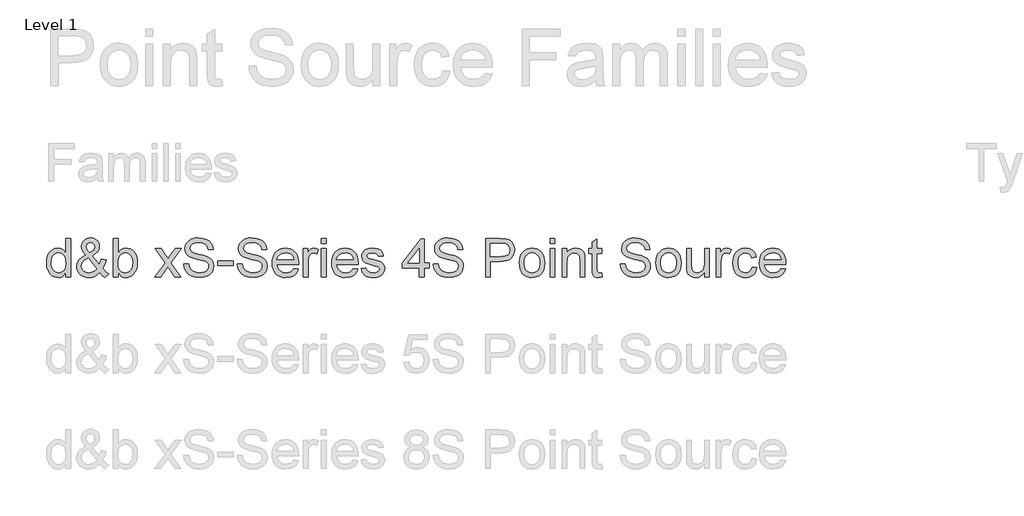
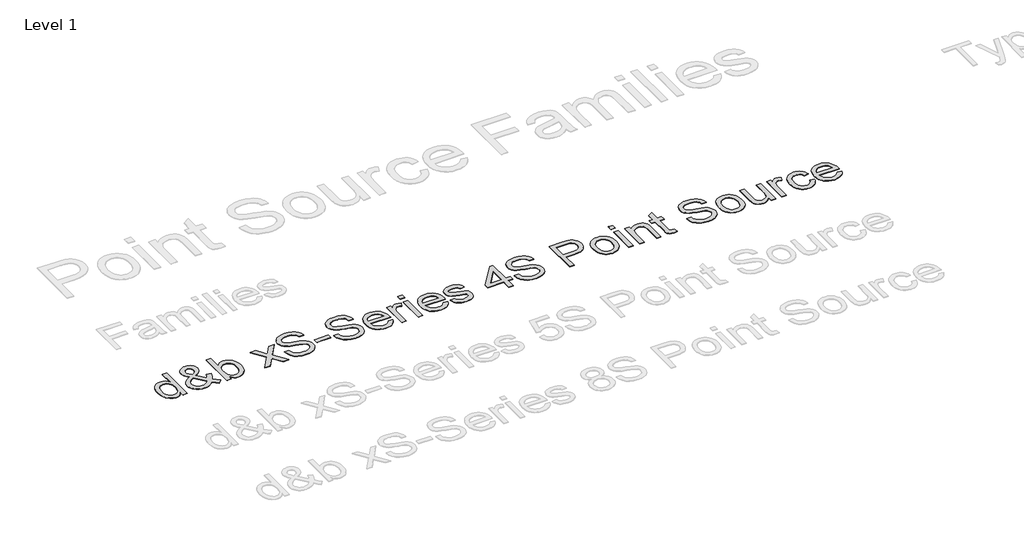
# One storey, part 51 of 55: 1 proxy.
"""IFC4 building model written with IfcOpenShell, lengths in millimetres."""

from ifc_helpers import new_model, si_unit, origin, origin_with_axes, place, context, project, spatial, polyline, outline, extrude, element, save

model = new_model("IFC4")

# Units and contexts
model_context = context("Model", 3, world=origin())
ifc_project = project(units=[si_unit("LENGTHUNIT", "METRE", prefix="MILLI")], contexts=[model_context])

# Site, building, storey
site = spatial("IfcSite", under=ifc_project)
building = spatial("IfcBuilding", under=site)
storey = spatial("IfcBuildingStorey", under=building, Name="Level 1", Elevation=0.0)

# Proxy
placement = place(None, origin())
element("IfcBuildingElementProxy", 1, Name="400mm Arial", ObjectType="400mm Arial", at=placement, inside=storey, context=model_context, shape_type="SweptSolid", body=[
    extrude(outline(polyline([(-20879.8211974, 16351.3054836), (-20879.8211974, 16398.6886846), (-20894.8491769, 16375.2116819), (-20913.0532043, 16358.4423943), (-20934.4332796, 16348.3808217), (-20958.9894028, 16345.0269642), (-20991.4611202, 16349.8830065), (-21021.1859854, 16364.4511335), (-21046.3491139, 16387.7135384), (-21065.1356211, 16418.6524142), (-21076.8342686, 16456.0169621), (-21080.7338177, 16498.5563835), (-21077.1408369, 16540.5685074), (-21066.3618944, 16578.5094038), (-21048.4092531, 16610.2208318), (-21023.2951755, 16633.5445503), (-20992.9203855, 16647.8919481), (-20959.1856065, 16652.674414), (-20934.6110892, 16649.2531115), (-20912.8815261, 16638.9892038), (-20894.4629008, 16623.2561171), (-20879.8211974, 16603.4272776), (-20879.8211974, 16753.1307242), (-20829.5930424, 16753.1307242), (-20829.5930424, 16351.3054836), (-20879.8211974, 16351.3054836)]), holes=[polyline([(-21030.5056627, 16498.7525872), (-21029.089317, 16474.3957335), (-21024.8402799, 16453.3191608), (-21017.7585515, 16435.5228693), (-21007.8441318, 16421.0068589), (-20983.1469871, 16401.6930542), (-20969.2717046, 16396.864603), (-20954.3786151, 16395.2551193), (-20939.415015, 16396.7910266), (-20925.6225058, 16401.3987486), (-20901.5507606, 16419.8296365), (-20892.0440767, 16433.7386416), (-20885.2535882, 16450.8911397), (-20879.8211974, 16494.9266145), (-20885.3516901, 16543.0701049), (-20892.2648059, 16561.6052261), (-20901.9431681, 16576.4492646), (-20913.6448812, 16587.8229496), (-20926.6280499, 16595.9470104), (-20940.8926743, 16600.8214468), (-20956.4387543, 16602.4462589), (-20971.6261493, 16600.8858262), (-20985.5014319, 16596.2045278), (-20998.064602, 16588.4023638), (-21009.3156597, 16577.4793342), (-21018.586286, 16563.1963157), (-21025.2081619, 16545.3141851), (-21030.5056627, 16498.7525872)])]), origin_with_axes(), (0.0, 0.0, 1.0), 5.0),
    extrude(outline(polyline([(-20523.809528, 16400.9450275), (-20549.3405384, 16376.4808748), (-20577.0788409, 16359.00648), (-20607.0734862, 16348.5218431), (-20639.3735254, 16345.0269642), (-20668.6814577, 16347.6144009), (-20694.8010793, 16355.376711), (-20717.7323904, 16368.3138945), (-20737.4753908, 16386.4259514), (-20750.308341, 16403.7961129), (-20759.4747341, 16422.1595558), (-20764.9745699, 16441.5162802), (-20766.8078485, 16461.8662859), (-20760.9094739, 16497.0603301), (-20743.2143499, 16528.6736562), (-20713.796053, 16556.6817387), (-20672.7281596, 16581.0600523), (-20694.6416638, 16609.4114914), (-20707.7995765, 16631.8768186), (-20714.3846642, 16651.0557332), (-20716.5796934, 16669.5479349), (-20714.8506481, 16687.1020374), (-20709.6635119, 16703.4666548), (-20701.018285, 16718.6417871), (-20688.9149674, 16732.6274343), (-20674.1935562, 16744.3444759), (-20657.6940487, 16752.7137912), (-20639.4164449, 16757.7353805), (-20619.3607448, 16759.4092436), (-20600.212487, 16757.8089569), (-20582.8913764, 16753.0080968), (-20567.397413, 16745.0066634), (-20553.7305969, 16733.8046567), (-20542.5715097, 16720.3585698), (-20534.6007332, 16705.6248959), (-20529.8182672, 16689.603635), (-20528.2241119, 16672.2947871), (-20532.9452642, 16644.31123), (-20547.108721, 16618.436863), (-20570.7144823, 16594.6716861), (-20603.7625482, 16573.0156993), (-20531.069066, 16482.4676776), (-20518.6837055, 16508.3420446), (-20509.3885538, 16538.0914353), (-20459.1603987, 16527.2021282), (-20474.6114425, 16480.6773185), (-20494.6732739, 16444.5022557), (-20466.1256311, 16411.1966724), (-20434.0463211, 16383.6790991), (-20471.7174374, 16345.0269642), (-20497.3465498, 16368.47331), (-20523.809528, 16400.9450275)]), holes=[polyline([(-20557.4584678, 16437.1446158), (-20647.1235727, 16549.0788442), (-20681.3733865, 16527.2266537), (-20702.305872, 16506.9931439), (-20713.0112381, 16487.6670765), (-20716.5796934, 16468.5372127), (-20711.6991256, 16444.8456122), (-20697.0574222, 16420.2710949), (-20686.2784798, 16409.3266056), (-20673.4639236, 16401.5091132), (-20658.6137537, 16396.8186177), (-20641.7279702, 16395.2551193), (-20619.0051256, 16398.1736498), (-20595.5710425, 16406.9292412), (-20574.1480476, 16420.3201459), (-20557.4584678, 16437.1446158)]), polyline([(-20629.1709314, 16604.7026019), (-20602.9041569, 16621.3676562), (-20587.8700461, 16635.8499441), (-20580.8067117, 16649.9398245), (-20578.452267, 16665.4276565), (-20581.5547385, 16682.9756277), (-20590.862153, 16696.9674062), (-20604.829406, 16706.1276679), (-20621.9113933, 16709.1810885), (-20639.3612626, 16706.1521934), (-20653.6473468, 16697.0655081), (-20663.1754905, 16683.6132898), (-20666.3515384, 16667.4877957), (-20662.0350563, 16649.0936959), (-20648.9875082, 16628.639457), (-20629.1709314, 16604.7026019)])]), origin_with_axes(), (0.0, 0.0, 1.0), 5.0),
    extrude(outline(polyline([(-20333.590011, 16351.3054836), (-20383.8181661, 16351.3054836), (-20383.8181661, 16753.1307242), (-20333.590011, 16753.1307242), (-20333.590011, 16604.1139907), (-20317.0721094, 16625.3591759), (-20298.4204923, 16640.5343082), (-20277.6351595, 16649.6393876), (-20254.7161112, 16652.674414), (-20228.8417442, 16649.9398245), (-20204.3898543, 16641.736056), (-20182.758393, 16628.5781433), (-20165.3453119, 16610.9811212), (-20151.6968898, 16589.116668), (-20141.3594058, 16563.1564619), (-20134.8478945, 16534.1796234), (-20132.6773907, 16503.265273), (-20134.9245365, 16467.5929822), (-20141.6659741, 16436.2126481), (-20152.9017034, 16409.1242705), (-20168.6317244, 16386.3278495), (-20187.5132678, 16368.2587122), (-20208.2035643, 16355.3521855), (-20230.702614, 16347.6082695), (-20255.0104168, 16345.0269642), (-20278.6836232, 16348.3562962), (-20299.671291, 16358.3442924), (-20317.9734203, 16374.9909527), (-20333.590011, 16398.2962771), (-20333.590011, 16351.3054836)]), holes=[polyline([(-20333.590011, 16500.9108283), (-20330.1564457, 16459.0213318), (-20319.8557498, 16430.6698927), (-20307.6849872, 16415.1759293), (-20293.5399244, 16404.1088126), (-20277.4205617, 16397.4685426), (-20259.3268989, 16395.2551193), (-20244.3050508, 16396.8860628), (-20230.3377977, 16401.7788933), (-20217.4251396, 16409.9336109), (-20205.5670767, 16421.3502155), (-20195.6526569, 16435.9980502), (-20188.5709285, 16453.8464584), (-20184.3218914, 16474.8954399), (-20182.9055458, 16499.1449947), (-20188.3379366, 16545.1057186), (-20195.1284251, 16562.8989445), (-20204.6351089, 16577.2340795), (-20216.0670419, 16588.264408), (-20228.6332778, 16596.1432141), (-20242.3338164, 16600.8704977), (-20257.1686579, 16602.4462589), (-20272.190506, 16600.8153154), (-20286.1577591, 16595.9224849), (-20299.0704171, 16587.7677673), (-20310.9284801, 16576.3511628), (-20320.8428999, 16561.8504808), (-20327.9246283, 16544.443531), (-20332.1736653, 16524.1303135), (-20333.590011, 16500.9108283)])]), origin_with_axes(), (0.0, 0.0, 1.0), 5.0),
    extrude(outline(polyline([(-19950.6003285, 16351.3054836), (-19843.2768878, 16499.7336059), (-19944.3218092, 16646.3958946), (-19884.0872638, 16646.3958946), (-19835.3306367, 16575.6644497), (-19812.4729021, 16542.4079173), (-19792.6563253, 16569.6802359), (-19737.1306695, 16646.3958946), (-19676.6999204, 16646.3958946), (-19782.8461387, 16499.635504), (-19680.623995, 16351.3054836), (-19740.9566422, 16351.3054836), (-19802.5646137, 16440.5781811), (-19813.7482263, 16456.9611926), (-19890.1695795, 16351.3054836), (-19950.6003285, 16351.3054836)])), origin_with_axes(), (0.0, 0.0, 1.0), 5.0),
    extrude(outline(polyline([(-19649.2313981, 16489.43291), (-19599.003243, 16489.43291), (-19593.2397584, 16461.5597175), (-19582.8164352, 16439.155704), (-19566.556051, 16421.3747409), (-19543.2813835, 16407.3706996), (-19514.8318425, 16398.2840144), (-19483.0468381, 16395.2551193), (-19455.063281, 16397.5482504), (-19430.5623402, 16404.4276437), (-19410.7089752, 16415.3169507), (-19396.6681457, 16429.6398231), (-19388.3172244, 16446.0841483), (-19385.533584, 16463.3378138), (-19387.6182486, 16480.150021), (-19393.8722425, 16494.6813598), (-19406.5764341, 16507.0789831), (-19428.0116917, 16517.4900435), (-19501.1466323, 16536.6689582), (-19549.1552327, 16549.360887), (-19579.8733793, 16561.4396792), (-19604.8770922, 16578.3377255), (-19622.5967416, 16598.8164899), (-19633.1549549, 16622.434514), (-19636.6743593, 16648.7503394), (-19632.3210891, 16678.1686363), (-19619.2612782, 16705.6003704), (-19597.8382834, 16728.8505125), (-19568.395461, 16745.7240333), (-19533.054264, 16755.987941), (-19493.9361452, 16759.4092436), (-19451.5561394, 16755.8285255), (-19414.4736342, 16745.0863712), (-19384.013005, 16727.40351), (-19361.4986269, 16703.000671), (-19347.249331, 16673.3984331), (-19341.5839483, 16640.1173753), (-19391.8121033, 16640.1173753), (-19401.0336787, 16670.0874951), (-19409.3968627, 16681.9455581), (-19420.2616443, 16691.7189564), (-19450.3053406, 16704.8155555), (-19491.9741079, 16709.1810885), (-19534.6238939, 16704.8646064), (-19550.9271976, 16699.4690038), (-19563.8827752, 16691.9151602), (-19580.805347, 16672.8588728), (-19586.4462043, 16650.2218674), (-19582.4485532, 16630.9203254), (-19570.4556002, 16615.3957052), (-19542.1041611, 16601.5142912), (-19488.4424407, 16587.3385717), (-19433.0639377, 16573.8740907), (-19399.5621507, 16562.1263923), (-19370.9286687, 16543.9039708), (-19350.9526764, 16521.4141181), (-19339.2172408, 16494.902089), (-19335.3054289, 16464.6131381), (-19339.805852, 16433.6497368), (-19353.3071212, 16404.5257455), (-19375.2574136, 16379.4607189), (-19405.1049061, 16360.6742117), (-19440.9979261, 16348.9387761), (-19481.0848008, 16345.0269642), (-19530.2951491, 16349.2453444), (-19570.7989567, 16361.900485), (-19603.0622077, 16383.041437), (-19627.5508858, 16412.7172513), (-19643.2717098, 16448.8677887), (-19649.2313981, 16489.43291)])), origin_with_axes(), (0.0, 0.0, 1.0), 5.0),
    extrude(outline(polyline([(-19291.3557932, 16470.5973519), (-19291.3557932, 16520.825507), (-19134.3928086, 16520.825507), (-19134.3928086, 16470.5973519), (-19291.3557932, 16470.5973519)])), origin_with_axes(), (0.0, 0.0, 1.0), 5.0),
    extrude(outline(polyline([(-19090.4431729, 16489.43291), (-19040.2150178, 16489.43291), (-19034.4515332, 16461.5597175), (-19024.02821, 16439.155704), (-19007.7678258, 16421.3747409), (-18984.4931583, 16407.3706996), (-18956.0436173, 16398.2840144), (-18924.2586129, 16395.2551193), (-18896.2750558, 16397.5482504), (-18871.774115, 16404.4276437), (-18851.9207499, 16415.3169507), (-18837.8799205, 16429.6398231), (-18829.5289992, 16446.0841483), (-18826.7453587, 16463.3378138), (-18828.8300234, 16480.150021), (-18835.0840173, 16494.6813598), (-18847.7882089, 16507.0789831), (-18869.2234665, 16517.4900435), (-18942.3584071, 16536.6689582), (-18990.3670075, 16549.360887), (-19021.0851541, 16561.4396792), (-19046.088867, 16578.3377255), (-19063.8085164, 16598.8164899), (-19074.3667297, 16622.434514), (-19077.8861341, 16648.7503394), (-19073.5328638, 16678.1686363), (-19060.473053, 16705.6003704), (-19039.0500582, 16728.8505125), (-19009.6072358, 16745.7240333), (-18974.2660388, 16755.987941), (-18935.14792, 16759.4092436), (-18892.7679141, 16755.8285255), (-18855.685409, 16745.0863712), (-18825.2247798, 16727.40351), (-18802.7104017, 16703.000671), (-18788.4611058, 16673.3984331), (-18782.7957231, 16640.1173753), (-18833.0238781, 16640.1173753), (-18842.2454535, 16670.0874951), (-18850.6086375, 16681.9455581), (-18861.4734191, 16691.7189564), (-18891.5171154, 16704.8155555), (-18933.1858827, 16709.1810885), (-18975.8356687, 16704.8646064), (-18992.1389724, 16699.4690038), (-19005.09455, 16691.9151602), (-19022.0171218, 16672.8588728), (-19027.657979, 16650.2218674), (-19023.660328, 16630.9203254), (-19011.667375, 16615.3957052), (-18983.3159359, 16601.5142912), (-18929.6542155, 16587.3385717), (-18874.2757125, 16573.8740907), (-18840.7739255, 16562.1263923), (-18812.1404435, 16543.9039708), (-18792.1644512, 16521.4141181), (-18780.4290156, 16494.902089), (-18776.5172037, 16464.6131381), (-18781.0176267, 16433.6497368), (-18794.518896, 16404.5257455), (-18816.4691883, 16379.4607189), (-18846.3166809, 16360.6742117), (-18882.2097009, 16348.9387761), (-18922.2965756, 16345.0269642), (-18971.5069238, 16349.2453444), (-19012.0107315, 16361.900485), (-19044.2739825, 16383.041437), (-19068.7626606, 16412.7172513), (-19084.4834846, 16448.8677887), (-19090.4431729, 16489.43291)])), origin_with_axes(), (0.0, 0.0, 1.0), 5.0),
    extrude(outline(polyline([(-18500.850962, 16439.204755), (-18451.6038255, 16432.9262356), (-18459.1546035, 16413.2016293), (-18469.3480004, 16395.819205), (-18482.1840164, 16380.7789628), (-18497.6626513, 16368.0809026), (-18515.6244897, 16357.9948045), (-18535.9101161, 16350.7904488), (-18583.4527326, 16345.0269642), (-18614.618469, 16347.5132333), (-18642.3874282, 16354.9720408), (-18666.7596104, 16367.4033865), (-18687.7350155, 16384.8072706), (-18704.602405, 16406.699315), (-18716.6505403, 16432.5951418), (-18723.8794215, 16462.4947509), (-18726.2890486, 16496.3981425), (-18723.8548961, 16531.4511652), (-18716.5524385, 16562.3471215), (-18704.3816758, 16589.0860112), (-18687.342608, 16611.6678343), (-18666.4223852, 16629.6082129), (-18642.6081574, 16642.4227691), (-18615.8999246, 16650.1115028), (-18586.2976867, 16652.674414), (-18557.6488763, 16650.1176342), (-18531.7407868, 16642.4472946), (-18508.5734182, 16629.6633952), (-18488.1467704, 16611.7659362), (-18471.472519, 16589.233164), (-18459.5623394, 16562.5433252), (-18452.4162316, 16531.6964199), (-18450.0341957, 16496.6924481), (-18450.3285013, 16483.1543906), (-18676.0608935, 16483.1543906), (-18673.1515601, 16463.1109533), (-18667.3666157, 16445.5568507), (-18658.7060604, 16430.492083), (-18647.1698942, 16417.9166502), (-18633.3957791, 16408.0022304), (-18618.0213774, 16400.920502), (-18582.4717139, 16395.2551193), (-18555.7389556, 16397.8793442), (-18533.2245775, 16405.7520189), (-18514.9285796, 16419.3636527), (-18500.850962, 16439.204755)]), holes=[polyline([(-18676.0608935, 16533.3825457), (-18500.2623508, 16533.3825457), (-18507.0559049, 16559.9191003), (-18520.3732332, 16578.9018113), (-18534.0707061, 16589.2025071), (-18549.65664, 16596.560147), (-18567.1310348, 16600.974731), (-18586.4938904, 16602.4462589), (-18620.3512967, 16597.7496321), (-18648.3471166, 16583.6597517), (-18667.8080741, 16561.6971966), (-18676.0608935, 16533.3825457)])]), origin_with_axes(), (0.0, 0.0, 1.0), 5.0),
    extrude(outline(polyline([(-18399.8060406, 16351.3054836), (-18399.8060406, 16646.3958946), (-18355.8564049, 16646.3958946), (-18355.8564049, 16602.7405645), (-18339.6205462, 16628.0508458), (-18324.6600117, 16642.9623293), (-18309.6504263, 16650.2463929), (-18293.2674148, 16652.674414), (-18268.2514391, 16648.7993903), (-18242.843056, 16637.1743193), (-18259.618475, 16592.1455631), (-18277.2768108, 16599.871085), (-18294.9351465, 16602.4462589), (-18309.9324692, 16599.9691868), (-18323.3356365, 16592.5379705), (-18334.1636299, 16580.7166958), (-18341.4354307, 16565.0694482), (-18347.5422718, 16537.0123147), (-18349.5778855, 16506.4045327), (-18349.5778855, 16351.3054836), (-18399.8060406, 16351.3054836)])), origin_with_axes(), (0.0, 0.0, 1.0), 5.0),
    extrude(outline(polyline([(-18211.4504591, 16702.9025691), (-18211.4504591, 16753.1307242), (-18161.222304, 16753.1307242), (-18161.222304, 16702.9025691), (-18211.4504591, 16702.9025691)])), origin_with_axes(), (0.0, 0.0, 1.0), 5.0),
    extrude(outline(polyline([(-18211.4504591, 16351.3054836), (-18211.4504591, 16646.3958946), (-18161.222304, 16646.3958946), (-18161.222304, 16351.3054836), (-18211.4504591, 16351.3054836)])), origin_with_axes(), (0.0, 0.0, 1.0), 5.0),
    extrude(outline(polyline([(-17879.2775429, 16439.204755), (-17830.0304065, 16432.9262356), (-17837.5811844, 16413.2016293), (-17847.7745814, 16395.819205), (-17860.6105973, 16380.7789628), (-17876.0892323, 16368.0809026), (-17894.0510707, 16357.9948045), (-17914.336697, 16350.7904488), (-17961.8793136, 16345.0269642), (-17993.0450499, 16347.5132333), (-18020.8140092, 16354.9720408), (-18045.1861914, 16367.4033865), (-18066.1615965, 16384.8072706), (-18083.0289859, 16406.699315), (-18095.0771213, 16432.5951418), (-18102.3060025, 16462.4947509), (-18104.7156295, 16496.3981425), (-18102.281477, 16531.4511652), (-18094.9790194, 16562.3471215), (-18082.8082567, 16589.0860112), (-18065.769189, 16611.6678343), (-18044.8489662, 16629.6082129), (-18021.0347384, 16642.4227691), (-17994.3265055, 16650.1115028), (-17964.7242676, 16652.674414), (-17936.0754573, 16650.1176342), (-17910.1673678, 16642.4472946), (-17886.9999991, 16629.6633952), (-17866.5733513, 16611.7659362), (-17849.8990999, 16589.233164), (-17837.9889203, 16562.5433252), (-17830.8428126, 16531.6964199), (-17828.4607766, 16496.6924481), (-17828.7550822, 16483.1543906), (-18054.4874745, 16483.1543906), (-18051.578141, 16463.1109533), (-18045.7931967, 16445.5568507), (-18037.1326413, 16430.492083), (-18025.5964751, 16417.9166502), (-18011.8223601, 16408.0022304), (-17996.4479584, 16400.920502), (-17960.8982949, 16395.2551193), (-17934.1655366, 16397.8793442), (-17911.6511585, 16405.7520189), (-17893.3551606, 16419.3636527), (-17879.2775429, 16439.204755)]), holes=[polyline([(-18054.4874745, 16533.3825457), (-17878.6889317, 16533.3825457), (-17885.4824859, 16559.9191003), (-17898.7998141, 16578.9018113), (-17912.4972871, 16589.2025071), (-17928.0832209, 16596.560147), (-17945.5576157, 16600.974731), (-17964.9204714, 16602.4462589), (-17998.7778777, 16597.7496321), (-18026.7736975, 16583.6597517), (-18046.234655, 16561.6971966), (-18054.4874745, 16533.3825457)])]), origin_with_axes(), (0.0, 0.0, 1.0), 5.0),
    extrude(outline(polyline([(-17797.0681797, 16439.204755), (-17746.8400246, 16445.4832743), (-17738.918299, 16423.9989658), (-17723.5898825, 16408.2045655), (-17700.7566734, 16398.4924808), (-17670.3205696, 16395.2551193), (-17640.2523479, 16398.2227007), (-17619.1113959, 16407.125445), (-17606.6034081, 16420.0258403), (-17602.4340788, 16434.9863747), (-17606.6279335, 16447.7886682), (-17619.2094978, 16457.5498038), (-17670.9091808, 16471.8726761), (-17746.545719, 16496.4471934), (-17765.6878455, 16508.7957657), (-17779.5569967, 16525.141989), (-17787.9814944, 16544.443531), (-17790.7896603, 16565.6580594), (-17788.5333174, 16585.119017), (-17781.7642887, 16603.0839211), (-17771.0957109, 16618.8415332), (-17757.1407205, 16631.6806148), (-17725.2085633, 16646.5430474), (-17704.3251287, 16651.1415724), (-17681.9946916, 16652.674414), (-17649.302245, 16650.2096047), (-17620.8772295, 16642.8151766), (-17598.0194949, 16631.214631), (-17582.0288908, 16616.1314692), (-17571.4338893, 16596.4497824), (-17564.7629625, 16571.053662), (-17614.9911176, 16564.7751426), (-17621.3309506, 16580.5818057), (-17633.8757267, 16592.4889196), (-17652.748073, 16599.9569241), (-17678.070617, 16602.4462589), (-17706.9125654, 16600.0672887), (-17726.140531, 16592.930378), (-17736.9562617, 16582.6296821), (-17740.5615053, 16570.7593564), (-17734.5772915, 16556.1421785), (-17715.8398352, 16545.0566677), (-17672.5769125, 16534.3635644), (-17598.8533607, 16510.7210148), (-17579.3801404, 16499.4147748), (-17564.6158097, 16483.9392056), (-17555.3083952, 16464.2452561), (-17552.2059237, 16440.2838755), (-17555.8479555, 16415.5131545), (-17566.7740507, 16392.2139614), (-17584.5672766, 16372.2134436), (-17608.8107, 16357.3387483), (-17638.0941069, 16348.1049102), (-17671.0072827, 16345.0269642), (-17698.040478, 16346.5107549), (-17721.6523707, 16350.962127), (-17741.8429609, 16358.3810806), (-17758.6122485, 16368.7676156), (-17772.3097214, 16382.0726811), (-17783.2848676, 16398.2472262), (-17791.5376871, 16417.2912508), (-17797.0681797, 16439.204755)])), origin_with_axes(), (0.0, 0.0, 1.0), 5.0),
    extrude(outline(polyline([(-17188.0517994, 16351.3054836), (-17188.0517994, 16445.4832743), (-17370.1288616, 16445.4832743), (-17370.1288616, 16495.7114294), (-17175.4947607, 16746.8522048), (-17137.8236444, 16746.8522048), (-17137.8236444, 16495.7114294), (-17087.5954893, 16495.7114294), (-17087.5954893, 16445.4832743), (-17137.8236444, 16445.4832743), (-17137.8236444, 16351.3054836), (-17188.0517994, 16351.3054836)]), holes=[polyline([(-17188.0517994, 16495.7114294), (-17188.0517994, 16650.9085804), (-17308.3246864, 16495.7114294), (-17188.0517994, 16495.7114294)])]), origin_with_axes(), (0.0, 0.0, 1.0), 5.0),
    extrude(outline(polyline([(-17043.6458536, 16489.43291), (-16993.4176985, 16489.43291), (-16987.6542139, 16461.5597175), (-16977.2308907, 16439.155704), (-16960.9705065, 16421.3747409), (-16937.695839, 16407.3706996), (-16909.246298, 16398.2840144), (-16877.4612936, 16395.2551193), (-16849.4777365, 16397.5482504), (-16824.9767957, 16404.4276437), (-16805.1234307, 16415.3169507), (-16791.0826012, 16429.6398231), (-16782.7316799, 16446.0841483), (-16779.9480394, 16463.3378138), (-16782.0327041, 16480.150021), (-16788.286698, 16494.6813598), (-16800.9908896, 16507.0789831), (-16822.4261472, 16517.4900435), (-16895.5610878, 16536.6689582), (-16943.5696882, 16549.360887), (-16974.2878348, 16561.4396792), (-16999.2915477, 16578.3377255), (-17017.0111971, 16598.8164899), (-17027.5694104, 16622.434514), (-17031.0888148, 16648.7503394), (-17026.7355445, 16678.1686363), (-17013.6757337, 16705.6003704), (-16992.2527389, 16728.8505125), (-16962.8099165, 16745.7240333), (-16927.4687195, 16755.987941), (-16888.3506007, 16759.4092436), (-16845.9705948, 16755.8285255), (-16808.8880897, 16745.0863712), (-16778.4274605, 16727.40351), (-16755.9130824, 16703.000671), (-16741.6637865, 16673.3984331), (-16735.9984038, 16640.1173753), (-16786.2265588, 16640.1173753), (-16795.4481342, 16670.0874951), (-16803.8113182, 16681.9455581), (-16814.6760998, 16691.7189564), (-16844.7197961, 16704.8155555), (-16886.3885634, 16709.1810885), (-16929.0383494, 16704.8646064), (-16945.3416531, 16699.4690038), (-16958.2972307, 16691.9151602), (-16975.2198025, 16672.8588728), (-16980.8606597, 16650.2218674), (-16976.8630087, 16630.9203254), (-16964.8700557, 16615.3957052), (-16936.5186166, 16601.5142912), (-16882.8568962, 16587.3385717), (-16827.4783932, 16573.8740907), (-16793.9766062, 16562.1263923), (-16765.3431242, 16543.9039708), (-16745.3671319, 16521.4141181), (-16733.6316963, 16494.902089), (-16729.7198844, 16464.6131381), (-16734.2203074, 16433.6497368), (-16747.7215767, 16404.5257455), (-16769.671869, 16379.4607189), (-16799.5193616, 16360.6742117), (-16835.4123816, 16348.9387761), (-16875.4992563, 16345.0269642), (-16924.7096046, 16349.2453444), (-16965.2134122, 16361.900485), (-16997.4766632, 16383.041437), (-17021.9653413, 16412.7172513), (-17037.6861653, 16448.8677887), (-17043.6458536, 16489.43291)])), origin_with_axes(), (0.0, 0.0, 1.0), 5.0),
    extrude(outline(polyline([(-16497.4146672, 16351.3054836), (-16497.4146672, 16753.1307242), (-16348.4960355, 16753.1307242), (-16288.4576939, 16749.3047514), (-16261.6881474, 16742.155578), (-16239.6520159, 16730.5182442), (-16221.907841, 16713.8654526), (-16208.0141643, 16691.6699055), (-16199.0378436, 16665.4889702), (-16196.0457367, 16636.8800137), (-16198.066022, 16612.2135259), (-16204.1268779, 16589.5213382), (-16214.2283043, 16568.8034505), (-16228.3703013, 16550.0598628), (-16247.7852736, 16534.5229799), (-16273.7056259, 16523.4252064), (-16306.1313581, 16516.7665423), (-16345.0624702, 16514.5469876), (-16447.1865121, 16514.5469876), (-16447.1865121, 16351.3054836), (-16497.4146672, 16351.3054836)]), holes=[polyline([(-16447.1865121, 16564.7751426), (-16342.1194143, 16564.7751426), (-16297.5811674, 16569.3859303), (-16280.9774267, 16575.1494149), (-16268.1506078, 16583.2182933), (-16258.5795445, 16593.3779678), (-16251.7430708, 16605.4138404), (-16246.2738918, 16635.1141801), (-16249.4989906, 16657.6776092), (-16259.1742871, 16676.709371), (-16274.0980333, 16691.0322434), (-16293.0684816, 16699.4690038), (-16343.2966366, 16702.9025691), (-16447.1865121, 16702.9025691), (-16447.1865121, 16564.7751426)])]), origin_with_axes(), (0.0, 0.0, 1.0), 5.0),
    extrude(outline(polyline([(-16145.8175816, 16498.8506891), (-16143.1013862, 16537.067497), (-16134.9528, 16569.999067), (-16121.371823, 16597.6453989), (-16102.3584553, 16620.0064928), (-16083.2163288, 16634.2987084), (-16062.0876395, 16644.5074337), (-16038.9723875, 16650.6326689), (-16013.8705727, 16652.674414), (-15986.1598614, 16650.1881449), (-15961.1040319, 16642.7293374), (-15938.703084, 16630.2979917), (-15918.9570179, 16612.8941076), (-15902.8407209, 16591.1062964), (-15891.3290801, 16565.5231694), (-15884.4220956, 16536.1447264), (-15882.1197675, 16502.9709675), (-15886.1909949, 16452.2277776), (-15898.4046771, 16413.6001681), (-15918.4051949, 16384.6723805), (-15945.8369291, 16363.0286565), (-15978.4190111, 16349.5273873), (-16013.8705727, 16345.0269642), (-16041.9859542, 16347.5040363), (-16067.2747757, 16354.9352526), (-16089.7370371, 16367.3206131), (-16109.3727386, 16384.6601178), (-16125.3173574, 16406.6594611), (-16136.7063709, 16433.0243374), (-16143.5397789, 16463.7547468), (-16145.8175816, 16498.8506891)]), holes=[polyline([(-16095.5894266, 16498.948791), (-16094.1362927, 16474.5858058), (-16089.776891, 16453.4908391), (-16082.5112216, 16435.6638907), (-16072.3392845, 16421.1049608), (-16059.9661867, 16409.7956551), (-16046.0970355, 16401.7175796), (-16030.7318308, 16396.8707344), (-16013.8705727, 16395.2551193), (-15997.0951537, 16396.8799314), (-15981.7912627, 16401.7543678), (-15967.9588997, 16409.8784286), (-15955.5980647, 16421.2521136), (-15945.4261275, 16435.9551307), (-15938.1604581, 16454.0671876), (-15933.8010564, 16475.5882843), (-15932.3479226, 16500.5184208), (-15933.8102535, 16524.1088538), (-15938.1972463, 16544.6519975), (-15945.5089009, 16562.1478521), (-15955.7452175, 16576.5964174), (-15968.1520377, 16587.9057231), (-15981.9752037, 16595.9837986), (-15997.2147154, 16600.8306439), (-16013.8705727, 16602.4462589), (-16030.7318308, 16600.8367752), (-16046.0970355, 16596.008324), (-16059.9661867, 16587.9609054), (-16072.3392845, 16576.6945193), (-16082.5112216, 16562.1785089), (-16089.776891, 16544.3822174), (-16094.1362927, 16523.3056447), (-16095.5894266, 16498.948791)])]), origin_with_axes(), (0.0, 0.0, 1.0), 5.0),
    extrude(outline(polyline([(-15825.613093, 16702.9025691), (-15825.613093, 16753.1307242), (-15775.384938, 16753.1307242), (-15775.384938, 16702.9025691), (-15825.613093, 16702.9025691)])), origin_with_axes(), (0.0, 0.0, 1.0), 5.0),
    extrude(outline(polyline([(-15825.613093, 16351.3054836), (-15825.613093, 16646.3958946), (-15775.384938, 16646.3958946), (-15775.384938, 16351.3054836), (-15825.613093, 16351.3054836)])), origin_with_axes(), (0.0, 0.0, 1.0), 5.0),
    extrude(outline(polyline([(-15700.0427053, 16351.3054836), (-15700.0427053, 16646.3958946), (-15649.8145503, 16646.3958946), (-15649.8145503, 16605.1931112), (-15632.364681, 16625.9661812), (-15611.40767, 16640.8040883), (-15586.9435173, 16649.7068326), (-15558.9722229, 16652.674414), (-15534.2137646, 16650.2831811), (-15511.539971, 16643.1094821), (-15492.6308365, 16632.0484968), (-15479.1663554, 16617.9954046), (-15470.0306192, 16600.9869937), (-15464.1077191, 16581.0600523), (-15461.4589687, 16532.4996289), (-15461.4589687, 16351.3054836), (-15511.6871238, 16351.3054836), (-15511.6871238, 16525.7306002), (-15513.1341263, 16551.7030691), (-15517.4751339, 16570.1707452), (-15525.4826986, 16583.4022343), (-15537.9293728, 16593.666142), (-15553.8831887, 16600.2512297), (-15572.4121785, 16602.4462589), (-15601.8304754, 16597.5166402), (-15626.9077647, 16582.727784), (-15636.9294834, 16570.6551232), (-15644.0878539, 16554.1556157), (-15648.3828762, 16533.2292616), (-15649.8145503, 16507.8760607), (-15649.8145503, 16351.3054836), (-15700.0427053, 16351.3054836)])), origin_with_axes(), (0.0, 0.0, 1.0), 5.0),
    extrude(outline(polyline([(-15285.660426, 16393.1949801), (-15279.3819066, 16349.8339556), (-15316.954921, 16345.0269642), (-15341.0634544, 16347.1116288), (-15359.0406213, 16353.3656227), (-15371.7448128, 16363.004131), (-15380.0344205, 16375.2423387), (-15384.5961572, 16396.2606634), (-15386.1167361, 16432.2395225), (-15386.1167361, 16596.1677396), (-15423.7878524, 16596.1677396), (-15423.7878524, 16646.3958946), (-15386.1167361, 16646.3958946), (-15386.1167361, 16718.1083582), (-15335.888581, 16747.6370197), (-15335.888581, 16646.3958946), (-15285.660426, 16646.3958946), (-15285.660426, 16596.1677396), (-15335.888581, 16596.1677396), (-15335.888581, 16433.7110505), (-15333.2398307, 16407.812158), (-15324.6559175, 16398.6396336), (-15307.537142, 16395.2551193), (-15285.660426, 16393.1949801)])), origin_with_axes(), (0.0, 0.0, 1.0), 5.0),
    extrude(outline(polyline([(-15091.0263251, 16489.43291), (-15040.79817, 16489.43291), (-15035.0346854, 16461.5597175), (-15024.6113622, 16439.155704), (-15008.350978, 16421.3747409), (-14985.0763104, 16407.3706996), (-14956.6267695, 16398.2840144), (-14924.8417651, 16395.2551193), (-14896.858208, 16397.5482504), (-14872.3572671, 16404.4276437), (-14852.5039021, 16415.3169507), (-14838.4630726, 16429.6398231), (-14830.1121513, 16446.0841483), (-14827.3285109, 16463.3378138), (-14829.4131756, 16480.150021), (-14835.6671695, 16494.6813598), (-14848.371361, 16507.0789831), (-14869.8066186, 16517.4900435), (-14942.9415593, 16536.6689582), (-14990.9501596, 16549.360887), (-15021.6683062, 16561.4396792), (-15046.6720192, 16578.3377255), (-15064.3916686, 16598.8164899), (-15074.9498819, 16622.434514), (-15078.4692863, 16648.7503394), (-15074.116016, 16678.1686363), (-15061.0562052, 16705.6003704), (-15039.6332103, 16728.8505125), (-15010.190388, 16745.7240333), (-14974.849191, 16755.987941), (-14935.7310722, 16759.4092436), (-14893.3510663, 16755.8285255), (-14856.2685612, 16745.0863712), (-14825.807932, 16727.40351), (-14803.2935539, 16703.000671), (-14789.044258, 16673.3984331), (-14783.3788752, 16640.1173753), (-14833.6070303, 16640.1173753), (-14842.8286056, 16670.0874951), (-14851.1917897, 16681.9455581), (-14862.0565713, 16691.7189564), (-14892.1002675, 16704.8155555), (-14933.7690349, 16709.1810885), (-14976.4188208, 16704.8646064), (-14992.7221246, 16699.4690038), (-15005.6777022, 16691.9151602), (-15022.600274, 16672.8588728), (-15028.2411312, 16650.2218674), (-15024.2434802, 16630.9203254), (-15012.2505272, 16615.3957052), (-14983.8990881, 16601.5142912), (-14930.2373677, 16587.3385717), (-14874.8588647, 16573.8740907), (-14841.3570777, 16562.1263923), (-14812.7235957, 16543.9039708), (-14792.7476034, 16521.4141181), (-14781.0121677, 16494.902089), (-14777.1003558, 16464.6131381), (-14781.6007789, 16433.6497368), (-14795.1020481, 16404.5257455), (-14817.0523405, 16379.4607189), (-14846.8998331, 16360.6742117), (-14882.7928531, 16348.9387761), (-14922.8797278, 16345.0269642), (-14972.090076, 16349.2453444), (-15012.5938837, 16361.900485), (-15044.8571347, 16383.041437), (-15069.3458128, 16412.7172513), (-15085.0666367, 16448.8677887), (-15091.0263251, 16489.43291)])), origin_with_axes(), (0.0, 0.0, 1.0), 5.0),
    extrude(outline(polyline([(-14720.5936814, 16498.8506891), (-14717.877486, 16537.067497), (-14709.7288998, 16569.999067), (-14696.1479228, 16597.6453989), (-14677.134555, 16620.0064928), (-14657.9924285, 16634.2987084), (-14636.8637393, 16644.5074337), (-14613.7484872, 16650.6326689), (-14588.6466724, 16652.674414), (-14560.9359612, 16650.1881449), (-14535.8801316, 16642.7293374), (-14513.4791838, 16630.2979917), (-14493.7331177, 16612.8941076), (-14477.6168206, 16591.1062964), (-14466.1051799, 16565.5231694), (-14459.1981954, 16536.1447264), (-14456.8958672, 16502.9709675), (-14460.9670947, 16452.2277776), (-14473.1807769, 16413.6001681), (-14493.1812947, 16384.6723805), (-14520.6130288, 16363.0286565), (-14553.1951108, 16349.5273873), (-14588.6466724, 16345.0269642), (-14616.7620539, 16347.5040363), (-14642.0508754, 16354.9352526), (-14664.5131369, 16367.3206131), (-14684.1488384, 16384.6601178), (-14700.0934572, 16406.6594611), (-14711.4824706, 16433.0243374), (-14718.3158787, 16463.7547468), (-14720.5936814, 16498.8506891)]), holes=[polyline([(-14670.3655263, 16498.948791), (-14668.9123924, 16474.5858058), (-14664.5529908, 16453.4908391), (-14657.2873214, 16435.6638907), (-14647.1153842, 16421.1049608), (-14634.7422864, 16409.7956551), (-14620.8731352, 16401.7175796), (-14605.5079306, 16396.8707344), (-14588.6466724, 16395.2551193), (-14571.8712535, 16396.8799314), (-14556.5673625, 16401.7543678), (-14542.7349994, 16409.8784286), (-14530.3741644, 16421.2521136), (-14520.2022272, 16435.9551307), (-14512.9365578, 16454.0671876), (-14508.5771562, 16475.5882843), (-14507.1240223, 16500.5184208), (-14508.5863532, 16524.1088538), (-14512.973346, 16544.6519975), (-14520.2850007, 16562.1478521), (-14530.5213172, 16576.5964174), (-14542.9281375, 16587.9057231), (-14556.7513035, 16595.9837986), (-14571.9908151, 16600.8306439), (-14588.6466724, 16602.4462589), (-14605.5079306, 16600.8367752), (-14620.8731352, 16596.008324), (-14634.7422864, 16587.9609054), (-14647.1153842, 16576.6945193), (-14657.2873214, 16562.1785089), (-14664.5529908, 16544.3822174), (-14668.9123924, 16523.3056447), (-14670.3655263, 16498.948791)])]), origin_with_axes(), (0.0, 0.0, 1.0), 5.0),
    extrude(outline(polyline([(-14212.0336112, 16351.3054836), (-14212.0336112, 16402.024148), (-14230.2069818, 16377.0878801), (-14251.3724593, 16359.2762601), (-14275.5300436, 16348.5892882), (-14302.6797349, 16345.0269642), (-14327.1438875, 16347.5285618), (-14349.915783, 16355.0333545), (-14369.0211213, 16366.315069), (-14382.4856023, 16380.147432), (-14391.5477622, 16396.9473764), (-14397.4461368, 16417.1318352), (-14400.3891928, 16463.8283232), (-14400.3891928, 16646.3958946), (-14350.1610377, 16646.3958946), (-14350.1610377, 16487.4708727), (-14347.1198799, 16436.261699), (-14339.7990282, 16419.1797117), (-14327.2542521, 16406.1934773), (-14310.3194176, 16397.9897088), (-14289.8283905, 16395.2551193), (-14268.160141, 16398.0510224), (-14247.889843, 16406.4387319), (-14231.1757377, 16419.6456955), (-14220.1760661, 16436.8993611), (-14214.069225, 16460.5296479), (-14212.0336112, 16492.8664753), (-14212.0336112, 16646.3958946), (-14161.8054562, 16646.3958946), (-14161.8054562, 16351.3054836), (-14212.0336112, 16351.3054836)])), origin_with_axes(), (0.0, 0.0, 1.0), 5.0),
    extrude(outline(polyline([(-14092.7417429, 16351.3054836), (-14092.7417429, 16646.3958946), (-14048.7921073, 16646.3958946), (-14048.7921073, 16602.7405645), (-14032.5562485, 16628.0508458), (-14017.5957141, 16642.9623293), (-14002.5861287, 16650.2463929), (-13986.2031171, 16652.674414), (-13961.1871415, 16648.7993903), (-13935.7787583, 16637.1743193), (-13952.5541773, 16592.1455631), (-13970.2125131, 16599.871085), (-13987.8708489, 16602.4462589), (-14002.8681715, 16599.9691868), (-14016.2713389, 16592.5379705), (-14027.0993323, 16580.7166958), (-14034.371133, 16565.0694482), (-14040.4779742, 16537.0123147), (-14042.5135879, 16506.4045327), (-14042.5135879, 16351.3054836), (-14092.7417429, 16351.3054836)])), origin_with_axes(), (0.0, 0.0, 1.0), 5.0),
    extrude(outline(polyline([(-13716.0305799, 16458.0403131), (-13665.8024248, 16451.7617937), (-13671.2654724, 16428.0609962), (-13679.8064661, 16407.0886568), (-13691.4254058, 16388.8447755), (-13706.1222915, 16373.3293524), (-13723.2778552, 16360.9470575), (-13742.2728289, 16352.1025612), (-13763.1072125, 16346.7958634), (-13785.7810062, 16345.0269642), (-13813.95157, 16347.4948392), (-13839.2097346, 16354.8984644), (-13861.5555001, 16367.2378396), (-13880.9888665, 16384.512965), (-13896.7188875, 16406.398878), (-13907.9546168, 16432.5706163), (-13914.6960543, 16463.0281798), (-13916.9432002, 16497.7715686), (-13913.1049647, 16542.469231), (-13901.5902583, 16581.2072051), (-13882.2151398, 16612.4894374), (-13854.7956685, 16634.8198745), (-13821.9928572, 16648.2107791), (-13786.4677192, 16652.674414), (-13764.1832674, 16651.1415724), (-13744.0263997, 16646.5430474), (-13725.9971163, 16638.8788392), (-13710.095417, 16628.1489477), (-13696.5910821, 16614.5986275), (-13685.7538917, 16598.4731334), (-13677.5838457, 16579.7724653), (-13672.0809442, 16558.4966233), (-13722.3090993, 16552.2181039), (-13731.42031, 16574.1316081), (-13745.6082923, 16589.8401692), (-13764.0882312, 16599.2947365), (-13786.0753118, 16602.4462589), (-13803.1419707, 16600.8950232), (-13818.5347665, 16596.241316), (-13832.2536992, 16588.4851372), (-13844.2987689, 16577.626487), (-13854.1058897, 16563.4139793), (-13861.110976, 16545.596228), (-13865.3140278, 16524.1732331), (-13866.7150451, 16499.1449947), (-13861.2336034, 16452.0683621), (-13854.3818012, 16434.1310491), (-13844.7892782, 16419.9277384), (-13832.9833318, 16409.1334675), (-13819.4912597, 16401.423274), (-13804.3130617, 16396.797158), (-13787.4487379, 16395.2551193), (-13761.4394808, 16399.1056175), (-13740.1145878, 16410.6571121), (-13724.6022304, 16430.2039088), (-13716.0305799, 16458.0403131)])), origin_with_axes(), (0.0, 0.0, 1.0), 5.0),
    extrude(outline(polyline([(-13415.2502606, 16439.204755), (-13366.0031242, 16432.9262356), (-13373.5539022, 16413.2016293), (-13383.7472991, 16395.819205), (-13396.5833151, 16380.7789628), (-13412.06195, 16368.0809026), (-13430.0237884, 16357.9948045), (-13450.3094148, 16350.7904488), (-13497.8520313, 16345.0269642), (-13529.0177676, 16347.5132333), (-13556.7867269, 16354.9720408), (-13581.1589091, 16367.4033865), (-13602.1343142, 16384.8072706), (-13619.0017037, 16406.699315), (-13631.049839, 16432.5951418), (-13638.2787202, 16462.4947509), (-13640.6883473, 16496.3981425), (-13638.2541947, 16531.4511652), (-13630.9517371, 16562.3471215), (-13618.7809745, 16589.0860112), (-13601.7419067, 16611.6678343), (-13580.8216839, 16629.6082129), (-13557.0074561, 16642.4227691), (-13530.2992233, 16650.1115028), (-13500.6969854, 16652.674414), (-13472.048175, 16650.1176342), (-13446.1400855, 16642.4472946), (-13422.9727168, 16629.6633952), (-13402.5460691, 16611.7659362), (-13385.8718176, 16589.233164), (-13373.961638, 16562.5433252), (-13366.8155303, 16531.6964199), (-13364.4334944, 16496.6924481), (-13364.7278, 16483.1543906), (-13590.4601922, 16483.1543906), (-13587.5508588, 16463.1109533), (-13581.7659144, 16445.5568507), (-13573.1053591, 16430.492083), (-13561.5691928, 16417.9166502), (-13547.7950778, 16408.0022304), (-13532.4206761, 16400.920502), (-13496.8710126, 16395.2551193), (-13470.1382543, 16397.8793442), (-13447.6238762, 16405.7520189), (-13429.3278783, 16419.3636527), (-13415.2502606, 16439.204755)]), holes=[polyline([(-13590.4601922, 16533.3825457), (-13414.6616494, 16533.3825457), (-13421.4552036, 16559.9191003), (-13434.7725318, 16578.9018113), (-13448.4700048, 16589.2025071), (-13464.0559387, 16596.560147), (-13481.5303334, 16600.974731), (-13500.8931891, 16602.4462589), (-13534.7505954, 16597.7496321), (-13562.7464152, 16583.6597517), (-13582.2073728, 16561.6971966), (-13590.4601922, 16533.3825457)])]), origin_with_axes(), (0.0, 0.0, 1.0), 5.0),
])

save(model, "model.ifc")
